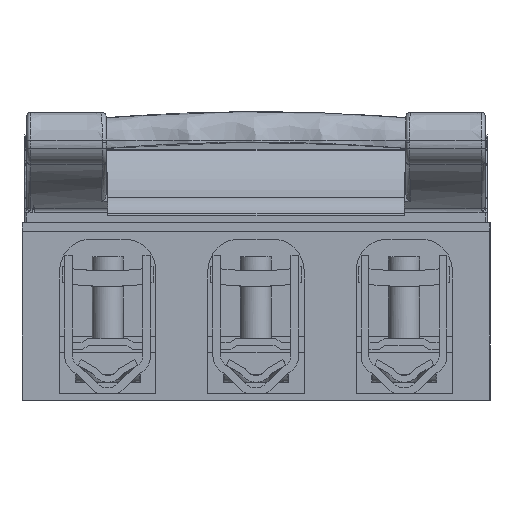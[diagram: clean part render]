
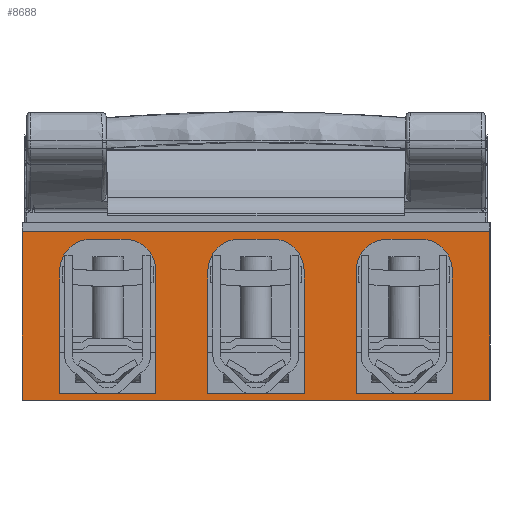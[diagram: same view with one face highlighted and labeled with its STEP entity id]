
A CAD part, left-side view. The second image highlights one B-rep face of the part: STEP entity #8688.
In plain terms, the highlighted planar face has unit normal (-1, 0, 0).
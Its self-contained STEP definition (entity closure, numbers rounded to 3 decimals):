
#8688=ADVANCED_FACE('',(#13146,#13147,#13148,#13149),#10888,.F.);
#10888=PLANE('',#46870);
#12470=CIRCLE('',#46864,12.275);
#12471=CIRCLE('',#46865,12.275);
#12472=CIRCLE('',#46866,12.275);
#12473=CIRCLE('',#46867,12.275);
#12474=CIRCLE('',#46868,12.275);
#12475=CIRCLE('',#46869,12.275);
#13146=FACE_BOUND('',#13996,.T.);
#13147=FACE_BOUND('',#13997,.T.);
#13148=FACE_BOUND('',#13998,.T.);
#13149=FACE_BOUND('',#13999,.T.);
#13996=EDGE_LOOP('',(#18597,#18598,#18599,#18600));
#13997=EDGE_LOOP('',(#18601,#18602,#18603,#18604,#18605,#18606));
#13998=EDGE_LOOP('',(#18607,#18608,#18609,#18610,#18611,#18612));
#13999=EDGE_LOOP('',(#18613,#18614,#18615,#18616,#18617,#18618));
#18597=ORIENTED_EDGE('',*,*,#33204,.T.);
#18598=ORIENTED_EDGE('',*,*,#34504,.T.);
#18599=ORIENTED_EDGE('',*,*,#34421,.T.);
#18600=ORIENTED_EDGE('',*,*,#33254,.F.);
#18601=ORIENTED_EDGE('',*,*,#34505,.T.);
#18602=ORIENTED_EDGE('',*,*,#34506,.F.);
#18603=ORIENTED_EDGE('',*,*,#34507,.F.);
#18604=ORIENTED_EDGE('',*,*,#34508,.T.);
#18605=ORIENTED_EDGE('',*,*,#34509,.T.);
#18606=ORIENTED_EDGE('',*,*,#34510,.T.);
#18607=ORIENTED_EDGE('',*,*,#34511,.T.);
#18608=ORIENTED_EDGE('',*,*,#34512,.F.);
#18609=ORIENTED_EDGE('',*,*,#34513,.F.);
#18610=ORIENTED_EDGE('',*,*,#34514,.T.);
#18611=ORIENTED_EDGE('',*,*,#34515,.T.);
#18612=ORIENTED_EDGE('',*,*,#34516,.T.);
#18613=ORIENTED_EDGE('',*,*,#34517,.T.);
#18614=ORIENTED_EDGE('',*,*,#34518,.F.);
#18615=ORIENTED_EDGE('',*,*,#34519,.F.);
#18616=ORIENTED_EDGE('',*,*,#34520,.T.);
#18617=ORIENTED_EDGE('',*,*,#34521,.T.);
#18618=ORIENTED_EDGE('',*,*,#34522,.T.);
#29029=VERTEX_POINT('',#62411);
#29030=VERTEX_POINT('',#62413);
#29073=VERTEX_POINT('',#62537);
#29760=VERTEX_POINT('',#66279);
#29770=VERTEX_POINT('',#66879);
#29771=VERTEX_POINT('',#66880);
#29772=VERTEX_POINT('',#66882);
#29773=VERTEX_POINT('',#66884);
#29774=VERTEX_POINT('',#66886);
#29775=VERTEX_POINT('',#66888);
#29776=VERTEX_POINT('',#66891);
#29777=VERTEX_POINT('',#66892);
#29778=VERTEX_POINT('',#66894);
#29779=VERTEX_POINT('',#66896);
#29780=VERTEX_POINT('',#66898);
#29781=VERTEX_POINT('',#66900);
#29782=VERTEX_POINT('',#66903);
#29783=VERTEX_POINT('',#66904);
#29784=VERTEX_POINT('',#66906);
#29785=VERTEX_POINT('',#66908);
#29786=VERTEX_POINT('',#66910);
#29787=VERTEX_POINT('',#66912);
#33204=EDGE_CURVE('',#29029,#29030,#39690,.T.);
#33254=EDGE_CURVE('',#29029,#29073,#39720,.T.);
#34421=EDGE_CURVE('',#29760,#29073,#40312,.T.);
#34504=EDGE_CURVE('',#29030,#29760,#40327,.T.);
#34505=EDGE_CURVE('',#29770,#29771,#12470,.T.);
#34506=EDGE_CURVE('',#29772,#29771,#40328,.T.);
#34507=EDGE_CURVE('',#29773,#29772,#40329,.T.);
#34508=EDGE_CURVE('',#29773,#29774,#40330,.T.);
#34509=EDGE_CURVE('',#29774,#29775,#12471,.T.);
#34510=EDGE_CURVE('',#29775,#29770,#40331,.T.);
#34511=EDGE_CURVE('',#29776,#29777,#12472,.T.);
#34512=EDGE_CURVE('',#29778,#29777,#40332,.T.);
#34513=EDGE_CURVE('',#29779,#29778,#40333,.T.);
#34514=EDGE_CURVE('',#29779,#29780,#40334,.T.);
#34515=EDGE_CURVE('',#29780,#29781,#12473,.T.);
#34516=EDGE_CURVE('',#29781,#29776,#40335,.T.);
#34517=EDGE_CURVE('',#29782,#29783,#12474,.T.);
#34518=EDGE_CURVE('',#29784,#29783,#40336,.T.);
#34519=EDGE_CURVE('',#29785,#29784,#40337,.T.);
#34520=EDGE_CURVE('',#29785,#29786,#40338,.T.);
#34521=EDGE_CURVE('',#29786,#29787,#12475,.T.);
#34522=EDGE_CURVE('',#29787,#29782,#40339,.T.);
#39690=LINE('',#62414,#42760);
#39720=LINE('',#62546,#42790);
#40312=LINE('',#66282,#43382);
#40327=LINE('',#66876,#43397);
#40328=LINE('',#66881,#43398);
#40329=LINE('',#66883,#43399);
#40330=LINE('',#66885,#43400);
#40331=LINE('',#66889,#43401);
#40332=LINE('',#66893,#43402);
#40333=LINE('',#66895,#43403);
#40334=LINE('',#66897,#43404);
#40335=LINE('',#66901,#43405);
#40336=LINE('',#66905,#43406);
#40337=LINE('',#66907,#43407);
#40338=LINE('',#66909,#43408);
#40339=LINE('',#66913,#43409);
#42760=VECTOR('',#50342,1.);
#42790=VECTOR('',#50412,1.);
#43382=VECTOR('',#52656,1.);
#43397=VECTOR('',#53009,1.);
#43398=VECTOR('',#53014,1.);
#43399=VECTOR('',#53015,1.);
#43400=VECTOR('',#53016,1.);
#43401=VECTOR('',#53019,1.);
#43402=VECTOR('',#53022,1.);
#43403=VECTOR('',#53023,1.);
#43404=VECTOR('',#53024,1.);
#43405=VECTOR('',#53027,1.);
#43406=VECTOR('',#53030,1.);
#43407=VECTOR('',#53031,1.);
#43408=VECTOR('',#53032,1.);
#43409=VECTOR('',#53035,1.);
#46864=AXIS2_PLACEMENT_3D('',#66878,#53012,#53013);
#46865=AXIS2_PLACEMENT_3D('',#66887,#53017,#53018);
#46866=AXIS2_PLACEMENT_3D('',#66890,#53020,#53021);
#46867=AXIS2_PLACEMENT_3D('',#66899,#53025,#53026);
#46868=AXIS2_PLACEMENT_3D('',#66902,#53028,#53029);
#46869=AXIS2_PLACEMENT_3D('',#66911,#53033,#53034);
#46870=AXIS2_PLACEMENT_3D('',#66914,#53036,#53037);
#50342=DIRECTION('',(0.,-1.,0.));
#50412=DIRECTION('',(0.,0.,1.));
#52656=DIRECTION('',(0.,1.,0.));
#53009=DIRECTION('',(0.,0.,1.));
#53012=DIRECTION('',(1.,0.,0.));
#53013=DIRECTION('',(0.,0.,-1.));
#53014=DIRECTION('',(0.,0.,1.));
#53015=DIRECTION('',(0.,-1.,0.));
#53016=DIRECTION('',(0.,0.,1.));
#53017=DIRECTION('',(1.,0.,0.));
#53018=DIRECTION('',(0.,0.,-1.));
#53019=DIRECTION('',(0.,-1.,0.));
#53020=DIRECTION('',(1.,0.,0.));
#53021=DIRECTION('',(0.,0.,-1.));
#53022=DIRECTION('',(0.,0.,1.));
#53023=DIRECTION('',(0.,-1.,0.));
#53024=DIRECTION('',(0.,0.,1.));
#53025=DIRECTION('',(1.,0.,0.));
#53026=DIRECTION('',(0.,0.,-1.));
#53027=DIRECTION('',(0.,-1.,0.));
#53028=DIRECTION('',(1.,0.,0.));
#53029=DIRECTION('',(0.,0.,-1.));
#53030=DIRECTION('',(0.,0.,1.));
#53031=DIRECTION('',(0.,-1.,0.));
#53032=DIRECTION('',(0.,0.,1.));
#53033=DIRECTION('',(1.,0.,0.));
#53034=DIRECTION('',(0.,0.,-1.));
#53035=DIRECTION('',(0.,-1.,0.));
#53036=DIRECTION('',(1.,0.,0.));
#53037=DIRECTION('',(0.,1.,0.));
#62411=CARTESIAN_POINT('',(-103.372,99.784,112.088));
#62413=CARTESIAN_POINT('',(-103.372,-80.216,112.088));
#62414=CARTESIAN_POINT('',(-103.372,95.284,112.088));
#62537=CARTESIAN_POINT('',(-103.372,99.784,177.006));
#62546=CARTESIAN_POINT('',(-103.372,99.784,117.088));
#66279=CARTESIAN_POINT('',(-103.372,-80.216,177.006));
#66282=CARTESIAN_POINT('',(-103.372,95.284,177.006));
#66876=CARTESIAN_POINT('',(-103.372,-80.216,117.088));
#66878=CARTESIAN_POINT('',(-103.372,60.534,161.838));
#66879=CARTESIAN_POINT('',(-103.372,60.534,174.113));
#66880=CARTESIAN_POINT('',(-103.372,48.26,161.838));
#66881=CARTESIAN_POINT('',(-103.372,48.26,144.763));
#66882=CARTESIAN_POINT('',(-103.372,48.26,114.588));
#66883=CARTESIAN_POINT('',(-103.372,-76.716,114.588));
#66884=CARTESIAN_POINT('',(-103.372,85.309,114.588));
#66885=CARTESIAN_POINT('',(-103.372,85.309,203.088));
#66886=CARTESIAN_POINT('',(-103.372,85.309,161.838));
#66887=CARTESIAN_POINT('',(-103.372,73.034,161.838));
#66888=CARTESIAN_POINT('',(-103.372,73.034,174.113));
#66889=CARTESIAN_POINT('',(-103.372,95.284,174.113));
#66890=CARTESIAN_POINT('',(-103.372,3.534,161.838));
#66891=CARTESIAN_POINT('',(-103.372,3.534,174.113));
#66892=CARTESIAN_POINT('',(-103.372,-8.74,161.838));
#66893=CARTESIAN_POINT('',(-103.372,-8.74,144.763));
#66894=CARTESIAN_POINT('',(-103.372,-8.74,114.588));
#66895=CARTESIAN_POINT('',(-103.372,-133.716,114.588));
#66896=CARTESIAN_POINT('',(-103.372,28.309,114.588));
#66897=CARTESIAN_POINT('',(-103.372,28.309,203.088));
#66898=CARTESIAN_POINT('',(-103.372,28.309,161.838));
#66899=CARTESIAN_POINT('',(-103.372,16.034,161.838));
#66900=CARTESIAN_POINT('',(-103.372,16.034,174.113));
#66901=CARTESIAN_POINT('',(-103.372,95.284,174.113));
#66902=CARTESIAN_POINT('',(-103.372,-53.466,161.838));
#66903=CARTESIAN_POINT('',(-103.372,-53.466,174.113));
#66904=CARTESIAN_POINT('',(-103.372,-65.74,161.838));
#66905=CARTESIAN_POINT('',(-103.372,-65.74,144.763));
#66906=CARTESIAN_POINT('',(-103.372,-65.74,114.588));
#66907=CARTESIAN_POINT('',(-103.372,-190.716,114.588));
#66908=CARTESIAN_POINT('',(-103.372,-28.691,114.588));
#66909=CARTESIAN_POINT('',(-103.372,-28.691,203.088));
#66910=CARTESIAN_POINT('',(-103.372,-28.691,161.838));
#66911=CARTESIAN_POINT('',(-103.372,-40.966,161.838));
#66912=CARTESIAN_POINT('',(-103.372,-40.966,174.113));
#66913=CARTESIAN_POINT('',(-103.372,95.284,174.113));
#66914=CARTESIAN_POINT('',(-103.372,95.284,203.088));
